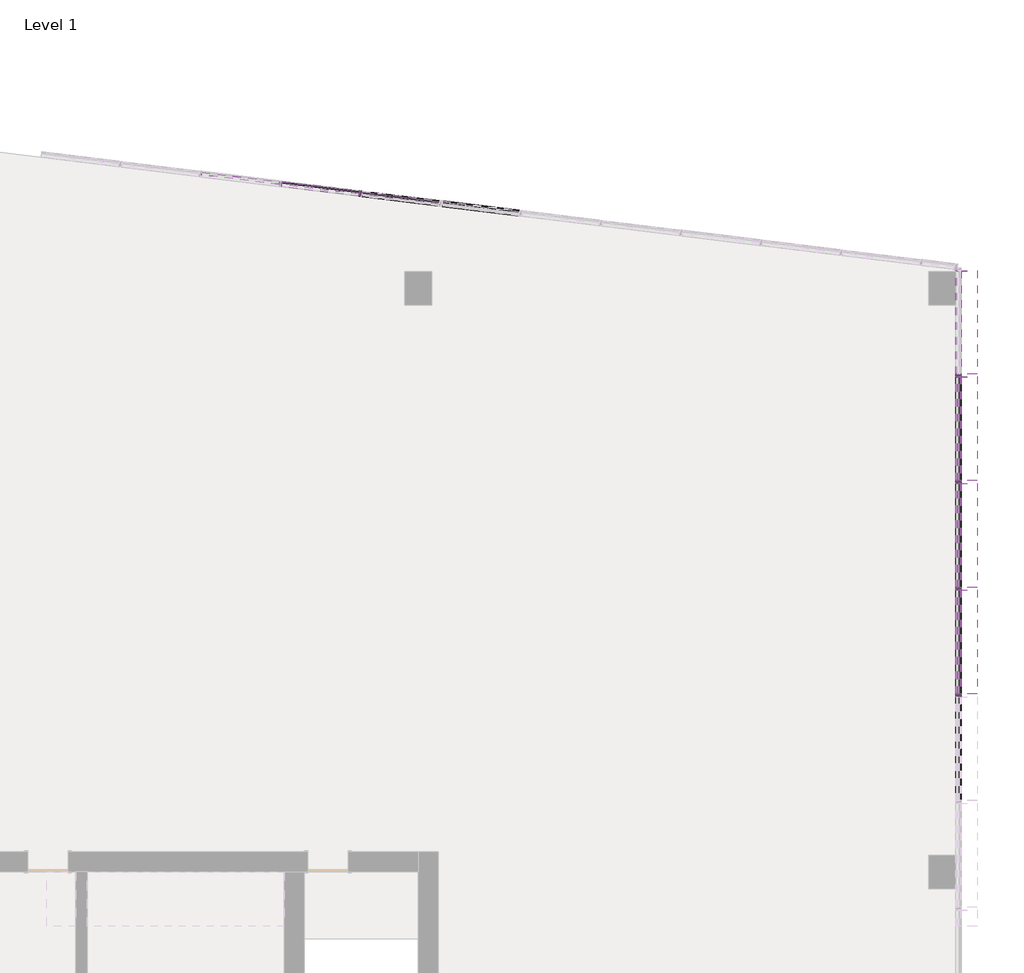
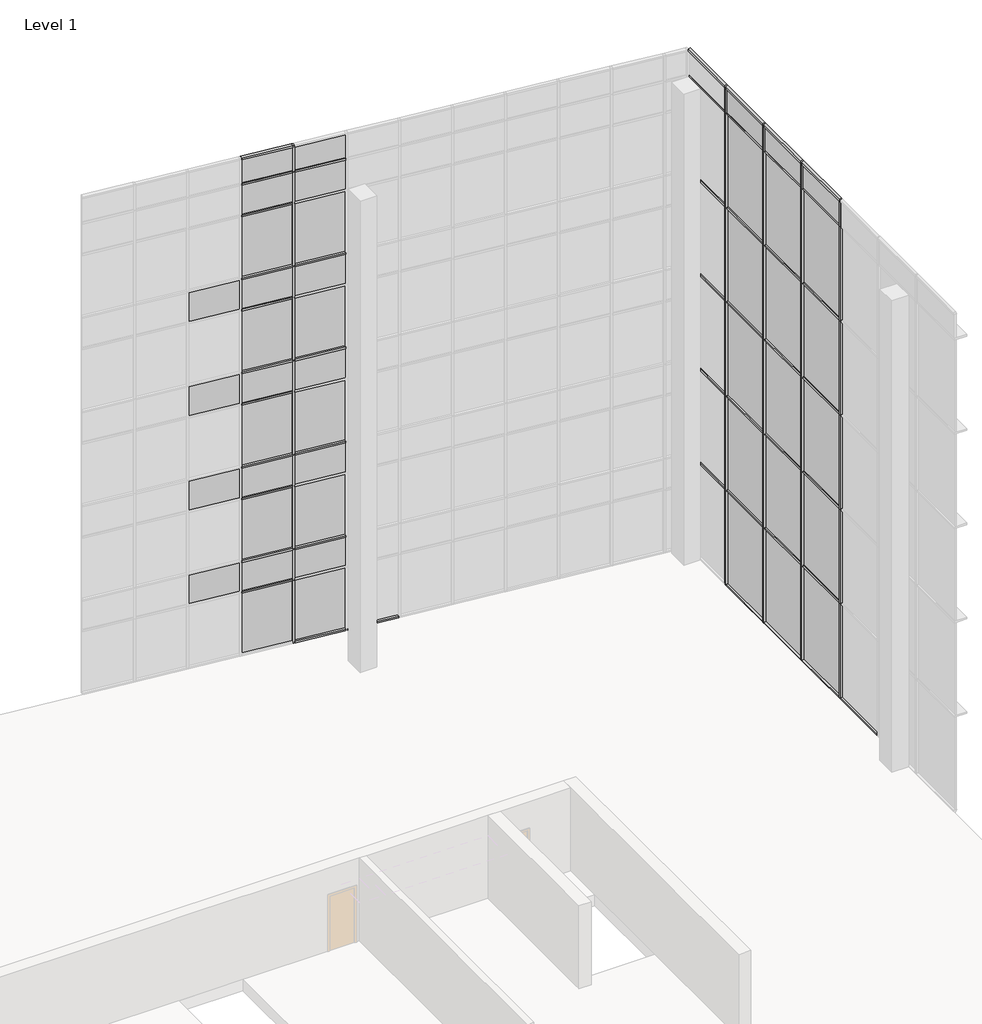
# One storey, part 20 of 23: 77 members, 44 plates.
"""IFC4 building model written with IfcOpenShell, lengths in millimetres."""

from ifc_helpers import new_model, si_unit, origin, place, context, project, spatial, transform, mapped, element, save
from components import member_4178592a, member_eccb456b, member_ad65018b, member_a26b4311, member_2b49869a, member_f92b8aa2, member_810865a4, member_f0fea5a5, member_6d5c3e5e, member_90793d7c, member_64b167af, member_9764dd38, system_panel_glazed_14c75400, system_panel_glazed_bb983545, system_panel_solid_5dfe6f83, system_panel_solid_e25e2004, system_panel_solid_b7551183, system_panel_solid_a8b18003

model = new_model("IFC4")

# Units and contexts
model_context = context("Model", 3, world=origin())
ifc_project = project(units=[si_unit("LENGTHUNIT", "METRE", prefix="MILLI")], contexts=[model_context])

# Site, building, storey
site = spatial("IfcSite", under=ifc_project)
building = spatial("IfcBuilding", under=site)
storey = spatial("IfcBuildingStorey", under=building, Name="Level 1", Elevation=0.0)

# Members
placement = place(None, origin())
member_shape = member_4178592a(model_context)
element("IfcMember", 1, ObjectType="Quad Corner Mullion : 5\" x 5\" Quad Corner", at=placement, inside=storey, context=model_context, shape_type="MappedRepresentation", body=[
    mapped(member_shape, transform((15106.8054088, 334.8243564, 19304.0), x_axis=(0.0, 0.0, 1.0), y_axis=(-1.0, 0.0, 0.0), z_axis=(0.0, -1.0, 0.0))),
])
element("IfcMember", 2, ObjectType="Quad Corner Mullion : 5\" x 5\" Quad Corner", at=placement, inside=storey, context=model_context, shape_type="MappedRepresentation", body=[
    mapped(member_shape, transform((15106.8054088, 2752.982224, 19304.0), x_axis=(0.0, 0.0, 1.0), y_axis=(-1.0, 0.0, 0.0), z_axis=(0.0, -1.0, 0.0))),
])
element("IfcMember", 3, ObjectType="Quad Corner Mullion : 5\" x 5\" Quad Corner", at=placement, inside=storey, context=model_context, shape_type="MappedRepresentation", body=[
    mapped(member_shape, transform((15106.8054088, 5171.1400916, 19304.0), x_axis=(0.0, 0.0, 1.0), y_axis=(-1.0, 0.0, 0.0), z_axis=(0.0, -1.0, 0.0))),
])
member_2_shape = member_eccb456b(model_context)
element("IfcMember", 4, ObjectType="Quad Corner Mullion : 5\" x 5\" Quad Corner", at=placement, inside=storey, context=model_context, shape_type="MappedRepresentation", body=[
    mapped(member_2_shape, transform((15106.8054088, 7589.2979592, 19304.0), x_axis=(0.0, 0.0, 1.0), y_axis=(-1.0, 0.0, 0.0), z_axis=(0.0, -1.0, 0.0))),
])
element("IfcMember", 5, ObjectType="Quad Corner Mullion : 5\" x 5\" Quad Corner", at=placement, inside=storey, context=model_context, shape_type="MappedRepresentation", body=[
    mapped(member_shape, transform((15106.8054088, 271.3243564, 0.0), x_axis=(0.0, 0.0, -1.0), y_axis=(-1.0, 0.0, 0.0), z_axis=(0.0, 1.0, 0.0))),
])
element("IfcMember", 6, ObjectType="Quad Corner Mullion : 5\" x 5\" Quad Corner", at=placement, inside=storey, context=model_context, shape_type="MappedRepresentation", body=[
    mapped(member_shape, transform((15106.8054088, 2689.482224, 0.0), x_axis=(0.0, 0.0, -1.0), y_axis=(-1.0, 0.0, 0.0), z_axis=(0.0, 1.0, 0.0))),
])
element("IfcMember", 7, ObjectType="Quad Corner Mullion : 5\" x 5\" Quad Corner", at=placement, inside=storey, context=model_context, shape_type="MappedRepresentation", body=[
    mapped(member_shape, transform((15106.8054088, 5107.6400916, 0.0), x_axis=(0.0, 0.0, -1.0), y_axis=(-1.0, 0.0, 0.0), z_axis=(0.0, 1.0, 0.0))),
])
element("IfcMember", 8, ObjectType="Quad Corner Mullion : 5\" x 5\" Quad Corner", at=placement, inside=storey, context=model_context, shape_type="MappedRepresentation", body=[
    mapped(member_shape, transform((15106.8054088, 7525.7979592, 0.0), x_axis=(0.0, 0.0, -1.0), y_axis=(-1.0, 0.0, 0.0), z_axis=(0.0, 1.0, 0.0))),
])
member_3_shape = member_ad65018b(model_context)
element("IfcMember", 9, ObjectType="Rectangular Mullion : 2.5\" x 18\" rectangular", at=placement, inside=storey, context=model_context, shape_type="MappedRepresentation", body=[
    mapped(member_3_shape, transform((15106.8054088, 7589.2979592, 3666.6228811), x_axis=(0.0, 0.0, 1.0), y_axis=(-1.0, 0.0, 0.0), z_axis=(0.0, -1.0, 0.0))),
])
element("IfcMember", 10, ObjectType="Rectangular Mullion : 2.5\" x 18\" rectangular", at=placement, inside=storey, context=model_context, shape_type="MappedRepresentation", body=[
    mapped(member_3_shape, transform((15106.8054088, 7589.2979592, 7324.2228811), x_axis=(0.0, 0.0, 1.0), y_axis=(-1.0, 0.0, 0.0), z_axis=(0.0, -1.0, 0.0))),
])
element("IfcMember", 11, ObjectType="Rectangular Mullion : 2.5\" x 18\" rectangular", at=placement, inside=storey, context=model_context, shape_type="MappedRepresentation", body=[
    mapped(member_3_shape, transform((15106.8054088, 7589.2979592, 10981.8228811), x_axis=(0.0, 0.0, 1.0), y_axis=(-1.0, 0.0, 0.0), z_axis=(0.0, -1.0, 0.0))),
])
element("IfcMember", 12, ObjectType="Rectangular Mullion : 2.5\" x 18\" rectangular", at=placement, inside=storey, context=model_context, shape_type="MappedRepresentation", body=[
    mapped(member_3_shape, transform((15106.8054088, 7589.2979592, 14639.4228811), x_axis=(0.0, 0.0, 1.0), y_axis=(-1.0, 0.0, 0.0), z_axis=(0.0, -1.0, 0.0))),
])
element("IfcMember", 13, ObjectType="Rectangular Mullion : 2.5\" x 18\" rectangular", at=placement, inside=storey, context=model_context, shape_type="MappedRepresentation", body=[
    mapped(member_3_shape, transform((15106.8054088, 7589.2979592, 18297.0228811), x_axis=(0.0, 0.0, 1.0), y_axis=(-1.0, 0.0, 0.0), z_axis=(0.0, -1.0, 0.0))),
])
member_4_shape = member_a26b4311(model_context)
element("IfcMember", 14, ObjectType="Rectangular Mullion : 2.5\" x 18\" rectangular", at=placement, inside=storey, context=model_context, shape_type="MappedRepresentation", body=[
    mapped(member_4_shape, transform((15106.8054088, 334.8243564, 3666.6228811), x_axis=(0.0, 0.0, 1.0), y_axis=(-1.0, 0.0, 0.0), z_axis=(0.0, -1.0, 0.0))),
])
element("IfcMember", 15, ObjectType="Rectangular Mullion : 2.5\" x 18\" rectangular", at=placement, inside=storey, context=model_context, shape_type="MappedRepresentation", body=[
    mapped(member_4_shape, transform((15106.8054088, 2752.982224, 3666.6228811), x_axis=(0.0, 0.0, 1.0), y_axis=(-1.0, 0.0, 0.0), z_axis=(0.0, -1.0, 0.0))),
])
element("IfcMember", 16, ObjectType="Rectangular Mullion : 2.5\" x 18\" rectangular", at=placement, inside=storey, context=model_context, shape_type="MappedRepresentation", body=[
    mapped(member_4_shape, transform((15106.8054088, 5171.1400916, 3666.6228811), x_axis=(0.0, 0.0, 1.0), y_axis=(-1.0, 0.0, 0.0), z_axis=(0.0, -1.0, 0.0))),
])
element("IfcMember", 17, ObjectType="Rectangular Mullion : 2.5\" x 18\" rectangular", at=placement, inside=storey, context=model_context, shape_type="MappedRepresentation", body=[
    mapped(member_4_shape, transform((15106.8054088, 334.8243564, 7324.2228811), x_axis=(0.0, 0.0, 1.0), y_axis=(-1.0, 0.0, 0.0), z_axis=(0.0, -1.0, 0.0))),
])
element("IfcMember", 18, ObjectType="Rectangular Mullion : 2.5\" x 18\" rectangular", at=placement, inside=storey, context=model_context, shape_type="MappedRepresentation", body=[
    mapped(member_4_shape, transform((15106.8054088, 2752.982224, 7324.2228811), x_axis=(0.0, 0.0, 1.0), y_axis=(-1.0, 0.0, 0.0), z_axis=(0.0, -1.0, 0.0))),
])
element("IfcMember", 19, ObjectType="Rectangular Mullion : 2.5\" x 18\" rectangular", at=placement, inside=storey, context=model_context, shape_type="MappedRepresentation", body=[
    mapped(member_4_shape, transform((15106.8054088, 5171.1400916, 7324.2228811), x_axis=(0.0, 0.0, 1.0), y_axis=(-1.0, 0.0, 0.0), z_axis=(0.0, -1.0, 0.0))),
])
element("IfcMember", 20, ObjectType="Rectangular Mullion : 2.5\" x 18\" rectangular", at=placement, inside=storey, context=model_context, shape_type="MappedRepresentation", body=[
    mapped(member_4_shape, transform((15106.8054088, 334.8243564, 10981.8228811), x_axis=(0.0, 0.0, 1.0), y_axis=(-1.0, 0.0, 0.0), z_axis=(0.0, -1.0, 0.0))),
])
element("IfcMember", 21, ObjectType="Rectangular Mullion : 2.5\" x 18\" rectangular", at=placement, inside=storey, context=model_context, shape_type="MappedRepresentation", body=[
    mapped(member_4_shape, transform((15106.8054088, 2752.982224, 10981.8228811), x_axis=(0.0, 0.0, 1.0), y_axis=(-1.0, 0.0, 0.0), z_axis=(0.0, -1.0, 0.0))),
])
element("IfcMember", 22, ObjectType="Rectangular Mullion : 2.5\" x 18\" rectangular", at=placement, inside=storey, context=model_context, shape_type="MappedRepresentation", body=[
    mapped(member_4_shape, transform((15106.8054088, 5171.1400916, 10981.8228811), x_axis=(0.0, 0.0, 1.0), y_axis=(-1.0, 0.0, 0.0), z_axis=(0.0, -1.0, 0.0))),
])
element("IfcMember", 23, ObjectType="Rectangular Mullion : 2.5\" x 18\" rectangular", at=placement, inside=storey, context=model_context, shape_type="MappedRepresentation", body=[
    mapped(member_4_shape, transform((15106.8054088, 334.8243564, 14639.4228811), x_axis=(0.0, 0.0, 1.0), y_axis=(-1.0, 0.0, 0.0), z_axis=(0.0, -1.0, 0.0))),
])
element("IfcMember", 24, ObjectType="Rectangular Mullion : 2.5\" x 18\" rectangular", at=placement, inside=storey, context=model_context, shape_type="MappedRepresentation", body=[
    mapped(member_4_shape, transform((15106.8054088, 2752.982224, 14639.4228811), x_axis=(0.0, 0.0, 1.0), y_axis=(-1.0, 0.0, 0.0), z_axis=(0.0, -1.0, 0.0))),
])
element("IfcMember", 25, ObjectType="Rectangular Mullion : 2.5\" x 18\" rectangular", at=placement, inside=storey, context=model_context, shape_type="MappedRepresentation", body=[
    mapped(member_4_shape, transform((15106.8054088, 5171.1400916, 14639.4228811), x_axis=(0.0, 0.0, 1.0), y_axis=(-1.0, 0.0, 0.0), z_axis=(0.0, -1.0, 0.0))),
])
element("IfcMember", 26, ObjectType="Rectangular Mullion : 2.5\" x 18\" rectangular", at=placement, inside=storey, context=model_context, shape_type="MappedRepresentation", body=[
    mapped(member_4_shape, transform((15106.8054088, 334.8243564, 18297.0228811), x_axis=(0.0, 0.0, 1.0), y_axis=(-1.0, 0.0, 0.0), z_axis=(0.0, -1.0, 0.0))),
])
element("IfcMember", 27, ObjectType="Rectangular Mullion : 2.5\" x 18\" rectangular", at=placement, inside=storey, context=model_context, shape_type="MappedRepresentation", body=[
    mapped(member_4_shape, transform((15106.8054088, 2752.982224, 18297.0228811), x_axis=(0.0, 0.0, 1.0), y_axis=(-1.0, 0.0, 0.0), z_axis=(0.0, -1.0, 0.0))),
])
element("IfcMember", 28, ObjectType="Rectangular Mullion : 2.5\" x 18\" rectangular", at=placement, inside=storey, context=model_context, shape_type="MappedRepresentation", body=[
    mapped(member_4_shape, transform((15106.8054088, 5171.1400916, 18297.0228811), x_axis=(0.0, 0.0, 1.0), y_axis=(-1.0, 0.0, 0.0), z_axis=(0.0, -1.0, 0.0))),
])
member_5_shape = member_2b49869a(model_context)
element("IfcMember", 29, ObjectType="Rectangular Mullion : 2.5\" x 5\" rectangular", at=placement, inside=storey, context=model_context, shape_type="MappedRepresentation", body=[
    mapped(member_5_shape, transform((1560.1740514, 11679.7958909, 2438.4), x_axis=(0.9925461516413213, -0.12186934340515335, 0.0), y_axis=(-0.12186934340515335, -0.9925461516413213, 0.0), z_axis=(0.0, 0.0, -1.0))),
])
member_6_shape = member_f92b8aa2(model_context)
element("IfcMember", 30, ObjectType="Rectangular Mullion : 2.5\" x 5\" rectangular", at=placement, inside=storey, context=model_context, shape_type="MappedRepresentation", body=[
    mapped(member_6_shape, transform((1560.1740514, 11679.7958909, 18288.0), x_axis=(0.9925461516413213, -0.12186934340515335, 0.0), y_axis=(-0.12186934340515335, -0.9925461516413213, 0.0), z_axis=(0.0, 0.0, -1.0))),
])
member_7_shape = member_810865a4(model_context)
element("IfcMember", 31, ObjectType="Rectangular Mullion : 2.5\" x 5\" rectangular", at=placement, inside=storey, context=model_context, shape_type="MappedRepresentation", body=[
    mapped(member_7_shape, transform((1560.1740514, 11679.7958909, 14630.4), x_axis=(0.9925461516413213, -0.12186934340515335, 0.0), y_axis=(-0.12186934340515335, -0.9925461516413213, 0.0), z_axis=(0.0, 0.0, -1.0))),
])
element("IfcMember", 32, ObjectType="Rectangular Mullion : 2.5\" x 5\" rectangular", at=placement, inside=storey, context=model_context, shape_type="MappedRepresentation", body=[
    mapped(member_7_shape, transform((1560.1740514, 11679.7958909, 10972.8), x_axis=(0.9925461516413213, -0.12186934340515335, 0.0), y_axis=(-0.12186934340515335, -0.9925461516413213, 0.0), z_axis=(0.0, 0.0, -1.0))),
])
element("IfcMember", 33, ObjectType="Rectangular Mullion : 2.5\" x 5\" rectangular", at=placement, inside=storey, context=model_context, shape_type="MappedRepresentation", body=[
    mapped(member_7_shape, transform((1560.1740514, 11679.7958909, 7315.2), x_axis=(0.9925461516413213, -0.12186934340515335, 0.0), y_axis=(-0.12186934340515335, -0.9925461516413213, 0.0), z_axis=(0.0, 0.0, -1.0))),
])
element("IfcMember", 34, ObjectType="Rectangular Mullion : 2.5\" x 5\" rectangular", at=placement, inside=storey, context=model_context, shape_type="MappedRepresentation", body=[
    mapped(member_7_shape, transform((1560.1740514, 11679.7958909, 3657.6), x_axis=(0.9925461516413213, -0.12186934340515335, 0.0), y_axis=(-0.12186934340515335, -0.9925461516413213, 0.0), z_axis=(0.0, 0.0, -1.0))),
])
element("IfcMember", 35, ObjectType="Rectangular Mullion : 2.5\" x 5\" rectangular", at=placement, inside=storey, context=model_context, shape_type="MappedRepresentation", body=[
    mapped(member_7_shape, transform((15106.8054088, 303.0743564, 3666.6228811), x_axis=(0.0, -1.0, 0.0), y_axis=(-1.0, 0.0, 0.0), z_axis=(0.0, 0.0, -1.0))),
])
element("IfcMember", 36, ObjectType="Rectangular Mullion : 2.5\" x 5\" rectangular", at=placement, inside=storey, context=model_context, shape_type="MappedRepresentation", body=[
    mapped(member_7_shape, transform((15106.8054088, 5139.3900916, 3666.6228811), x_axis=(0.0, -1.0, 0.0), y_axis=(-1.0, 0.0, 0.0), z_axis=(0.0, 0.0, -1.0))),
])
element("IfcMember", 37, ObjectType="Rectangular Mullion : 2.5\" x 5\" rectangular", at=placement, inside=storey, context=model_context, shape_type="MappedRepresentation", body=[
    mapped(member_7_shape, transform((15106.8054088, 7557.5479592, 3666.6228811), x_axis=(0.0, -1.0, 0.0), y_axis=(-1.0, 0.0, 0.0), z_axis=(0.0, 0.0, -1.0))),
])
element("IfcMember", 38, ObjectType="Rectangular Mullion : 2.5\" x 5\" rectangular", at=placement, inside=storey, context=model_context, shape_type="MappedRepresentation", body=[
    mapped(member_7_shape, transform((15106.8054088, 2721.232224, 3666.6228811), x_axis=(0.0, -1.0, 0.0), y_axis=(-1.0, 0.0, 0.0), z_axis=(0.0, 0.0, -1.0))),
])
element("IfcMember", 39, ObjectType="Rectangular Mullion : 2.5\" x 5\" rectangular", at=placement, inside=storey, context=model_context, shape_type="MappedRepresentation", body=[
    mapped(member_7_shape, transform((15106.8054088, 303.0743564, 7324.2228811), x_axis=(0.0, -1.0, 0.0), y_axis=(-1.0, 0.0, 0.0), z_axis=(0.0, 0.0, -1.0))),
])
element("IfcMember", 40, ObjectType="Rectangular Mullion : 2.5\" x 5\" rectangular", at=placement, inside=storey, context=model_context, shape_type="MappedRepresentation", body=[
    mapped(member_7_shape, transform((15106.8054088, 5139.3900916, 7324.2228811), x_axis=(0.0, -1.0, 0.0), y_axis=(-1.0, 0.0, 0.0), z_axis=(0.0, 0.0, -1.0))),
])
element("IfcMember", 41, ObjectType="Rectangular Mullion : 2.5\" x 5\" rectangular", at=placement, inside=storey, context=model_context, shape_type="MappedRepresentation", body=[
    mapped(member_7_shape, transform((15106.8054088, 7557.5479592, 7324.2228811), x_axis=(0.0, -1.0, 0.0), y_axis=(-1.0, 0.0, 0.0), z_axis=(0.0, 0.0, -1.0))),
])
element("IfcMember", 42, ObjectType="Rectangular Mullion : 2.5\" x 5\" rectangular", at=placement, inside=storey, context=model_context, shape_type="MappedRepresentation", body=[
    mapped(member_7_shape, transform((15106.8054088, 2721.232224, 7324.2228811), x_axis=(0.0, -1.0, 0.0), y_axis=(-1.0, 0.0, 0.0), z_axis=(0.0, 0.0, -1.0))),
])
element("IfcMember", 43, ObjectType="Rectangular Mullion : 2.5\" x 5\" rectangular", at=placement, inside=storey, context=model_context, shape_type="MappedRepresentation", body=[
    mapped(member_7_shape, transform((15106.8054088, 303.0743564, 10981.8228811), x_axis=(0.0, -1.0, 0.0), y_axis=(-1.0, 0.0, 0.0), z_axis=(0.0, 0.0, -1.0))),
])
element("IfcMember", 44, ObjectType="Rectangular Mullion : 2.5\" x 5\" rectangular", at=placement, inside=storey, context=model_context, shape_type="MappedRepresentation", body=[
    mapped(member_7_shape, transform((15106.8054088, 5139.3900916, 10981.8228811), x_axis=(0.0, -1.0, 0.0), y_axis=(-1.0, 0.0, 0.0), z_axis=(0.0, 0.0, -1.0))),
])
element("IfcMember", 45, ObjectType="Rectangular Mullion : 2.5\" x 5\" rectangular", at=placement, inside=storey, context=model_context, shape_type="MappedRepresentation", body=[
    mapped(member_7_shape, transform((15106.8054088, 7557.5479592, 10981.8228811), x_axis=(0.0, -1.0, 0.0), y_axis=(-1.0, 0.0, 0.0), z_axis=(0.0, 0.0, -1.0))),
])
element("IfcMember", 46, ObjectType="Rectangular Mullion : 2.5\" x 5\" rectangular", at=placement, inside=storey, context=model_context, shape_type="MappedRepresentation", body=[
    mapped(member_7_shape, transform((15106.8054088, 2721.232224, 10981.8228811), x_axis=(0.0, -1.0, 0.0), y_axis=(-1.0, 0.0, 0.0), z_axis=(0.0, 0.0, -1.0))),
])
element("IfcMember", 47, ObjectType="Rectangular Mullion : 2.5\" x 5\" rectangular", at=placement, inside=storey, context=model_context, shape_type="MappedRepresentation", body=[
    mapped(member_7_shape, transform((15106.8054088, 303.0743564, 14639.4228811), x_axis=(0.0, -1.0, 0.0), y_axis=(-1.0, 0.0, 0.0), z_axis=(0.0, 0.0, -1.0))),
])
element("IfcMember", 48, ObjectType="Rectangular Mullion : 2.5\" x 5\" rectangular", at=placement, inside=storey, context=model_context, shape_type="MappedRepresentation", body=[
    mapped(member_7_shape, transform((15106.8054088, 5139.3900916, 14639.4228811), x_axis=(0.0, -1.0, 0.0), y_axis=(-1.0, 0.0, 0.0), z_axis=(0.0, 0.0, -1.0))),
])
element("IfcMember", 49, ObjectType="Rectangular Mullion : 2.5\" x 5\" rectangular", at=placement, inside=storey, context=model_context, shape_type="MappedRepresentation", body=[
    mapped(member_7_shape, transform((15106.8054088, 7557.5479592, 14639.4228811), x_axis=(0.0, -1.0, 0.0), y_axis=(-1.0, 0.0, 0.0), z_axis=(0.0, 0.0, -1.0))),
])
element("IfcMember", 50, ObjectType="Rectangular Mullion : 2.5\" x 5\" rectangular", at=placement, inside=storey, context=model_context, shape_type="MappedRepresentation", body=[
    mapped(member_7_shape, transform((15106.8054088, 2721.232224, 14639.4228811), x_axis=(0.0, -1.0, 0.0), y_axis=(-1.0, 0.0, 0.0), z_axis=(0.0, 0.0, -1.0))),
])
member_8_shape = member_f0fea5a5(model_context)
element("IfcMember", 51, ObjectType="Rectangular Mullion : 2.5\" x 5\" rectangular", at=placement, inside=storey, context=model_context, shape_type="MappedRepresentation", body=[
    mapped(member_8_shape, transform((1560.1740514, 11679.7958909, 0.0), x_axis=(0.9925461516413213, -0.12186934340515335, 0.0), y_axis=(-0.12186934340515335, -0.9925461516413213, 0.0), z_axis=(0.0, 0.0, -1.0))),
])
member_9_shape = member_6d5c3e5e(model_context)
element("IfcMember", 52, ObjectType="Rectangular Mullion : 2.5\" x 5\" rectangular", at=placement, inside=storey, context=model_context, shape_type="MappedRepresentation", body=[
    mapped(member_9_shape, transform((1528.6607111, 11683.6652425, 19304.0), x_axis=(0.0, 0.0, 1.0), y_axis=(-0.12186934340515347, -0.9925461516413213, 0.0), z_axis=(0.9925461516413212, -0.12186934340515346, 0.0))),
])
member_10_shape = member_90793d7c(model_context)
element("IfcMember", 53, ObjectType="Rectangular Mullion : 2.5\" x 5\" rectangular", at=placement, inside=storey, context=model_context, shape_type="MappedRepresentation", body=[
    mapped(member_10_shape, transform((15106.8054088, 303.0743564, 0.0), x_axis=(0.0, -1.0, 0.0), y_axis=(-1.0, 0.0, 0.0), z_axis=(0.0, 0.0, -1.0))),
])
element("IfcMember", 54, ObjectType="Rectangular Mullion : 2.5\" x 5\" rectangular", at=placement, inside=storey, context=model_context, shape_type="MappedRepresentation", body=[
    mapped(member_10_shape, transform((15106.8054088, 5139.3900916, 0.0), x_axis=(0.0, -1.0, 0.0), y_axis=(-1.0, 0.0, 0.0), z_axis=(0.0, 0.0, -1.0))),
])
element("IfcMember", 55, ObjectType="Rectangular Mullion : 2.5\" x 5\" rectangular", at=placement, inside=storey, context=model_context, shape_type="MappedRepresentation", body=[
    mapped(member_10_shape, transform((15106.8054088, 7557.5479592, 0.0), x_axis=(0.0, -1.0, 0.0), y_axis=(-1.0, 0.0, 0.0), z_axis=(0.0, 0.0, -1.0))),
])
element("IfcMember", 56, ObjectType="Rectangular Mullion : 2.5\" x 5\" rectangular", at=placement, inside=storey, context=model_context, shape_type="MappedRepresentation", body=[
    mapped(member_10_shape, transform((15106.8054088, 2721.232224, 0.0), x_axis=(0.0, -1.0, 0.0), y_axis=(-1.0, 0.0, 0.0), z_axis=(0.0, 0.0, -1.0))),
])
member_11_shape = member_64b167af(model_context)
element("IfcMember", 57, ObjectType="Rectangular Mullion : 2.5\" x 5\" rectangular", at=placement, inside=storey, context=model_context, shape_type="MappedRepresentation", body=[
    mapped(member_11_shape, transform((15106.8054088, 303.0743564, 18297.0228811), x_axis=(0.0, -1.0, 0.0), y_axis=(-1.0, 0.0, 0.0), z_axis=(0.0, 0.0, -1.0))),
])
element("IfcMember", 58, ObjectType="Rectangular Mullion : 2.5\" x 5\" rectangular", at=placement, inside=storey, context=model_context, shape_type="MappedRepresentation", body=[
    mapped(member_11_shape, transform((15106.8054088, 5139.3900916, 18297.0228811), x_axis=(0.0, -1.0, 0.0), y_axis=(-1.0, 0.0, 0.0), z_axis=(0.0, 0.0, -1.0))),
])
element("IfcMember", 59, ObjectType="Rectangular Mullion : 2.5\" x 5\" rectangular", at=placement, inside=storey, context=model_context, shape_type="MappedRepresentation", body=[
    mapped(member_11_shape, transform((15106.8054088, 7557.5479592, 18297.0228811), x_axis=(0.0, -1.0, 0.0), y_axis=(-1.0, 0.0, 0.0), z_axis=(0.0, 0.0, -1.0))),
])
element("IfcMember", 60, ObjectType="Rectangular Mullion : 2.5\" x 5\" rectangular", at=placement, inside=storey, context=model_context, shape_type="MappedRepresentation", body=[
    mapped(member_11_shape, transform((15106.8054088, 2721.232224, 18297.0228811), x_axis=(0.0, -1.0, 0.0), y_axis=(-1.0, 0.0, 0.0), z_axis=(0.0, 0.0, -1.0))),
])
member_12_shape = member_9764dd38(model_context)
element("IfcMember", 61, ObjectType="Rectangular Mullion : 2.5\" x 5\" rectangular", at=placement, inside=storey, context=model_context, shape_type="MappedRepresentation", body=[
    mapped(member_12_shape, transform((1528.6607111, 11683.6652425, 17068.8), x_axis=(0.0, 0.0, 1.0), y_axis=(-0.1218693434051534, -0.9925461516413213, 0.0), z_axis=(0.9925461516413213, -0.1218693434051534, 0.0))),
])
element("IfcMember", 62, ObjectType="Rectangular Mullion : 2.5\" x 5\" rectangular", at=placement, inside=storey, context=model_context, shape_type="MappedRepresentation", body=[
    mapped(member_12_shape, transform((1528.6607111, 11683.6652425, 13411.2), x_axis=(0.0, 0.0, 1.0), y_axis=(-0.1218693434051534, -0.9925461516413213, 0.0), z_axis=(0.9925461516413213, -0.1218693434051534, 0.0))),
])
element("IfcMember", 63, ObjectType="Rectangular Mullion : 2.5\" x 5\" rectangular", at=placement, inside=storey, context=model_context, shape_type="MappedRepresentation", body=[
    mapped(member_12_shape, transform((1528.6607111, 11683.6652425, 9753.6), x_axis=(0.0, 0.0, 1.0), y_axis=(-0.1218693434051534, -0.9925461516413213, 0.0), z_axis=(0.9925461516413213, -0.1218693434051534, 0.0))),
])
element("IfcMember", 64, ObjectType="Rectangular Mullion : 2.5\" x 5\" rectangular", at=placement, inside=storey, context=model_context, shape_type="MappedRepresentation", body=[
    mapped(member_12_shape, transform((1528.6607111, 11683.6652425, 6096.0), x_axis=(0.0, 0.0, 1.0), y_axis=(-0.1218693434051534, -0.9925461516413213, 0.0), z_axis=(0.9925461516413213, -0.1218693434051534, 0.0))),
])
element("IfcMember", 65, ObjectType="Rectangular Mullion : 2.5\" x 5\" rectangular", at=placement, inside=storey, context=model_context, shape_type="MappedRepresentation", body=[
    mapped(member_12_shape, transform((1528.6607111, 11683.6652425, 2470.15), x_axis=(0.0, 0.0, 1.0), y_axis=(-0.1218693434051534, -0.9925461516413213, 0.0), z_axis=(0.9925461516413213, -0.1218693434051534, 0.0))),
])
element("IfcMember", 66, ObjectType="Rectangular Mullion : 2.5\" x 5\" rectangular", at=placement, inside=storey, context=model_context, shape_type="MappedRepresentation", body=[
    mapped(member_9_shape, transform((3406.8557938, 11453.051884, 0.0), x_axis=(0.0, 0.0, -1.0), y_axis=(-0.12186934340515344, -0.9925461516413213, 0.0), z_axis=(-0.9925461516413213, 0.12186934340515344, 0.0))),
])
element("IfcMember", 67, ObjectType="Rectangular Mullion : 2.5\" x 5\" rectangular", at=placement, inside=storey, context=model_context, shape_type="MappedRepresentation", body=[
    mapped(member_9_shape, transform((1591.6873917, 11675.9265392, 0.0), x_axis=(0.0, 0.0, -1.0), y_axis=(-0.12186934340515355, -0.9925461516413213, 0.0), z_axis=(-0.9925461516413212, 0.12186934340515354, 0.0))),
])
element("IfcMember", 68, ObjectType="Rectangular Mullion : 2.5\" x 5\" rectangular", at=placement, inside=storey, context=model_context, shape_type="MappedRepresentation", body=[
    mapped(member_12_shape, transform((3343.8291132, 11460.7905873, 3657.6), x_axis=(0.0, 0.0, 1.0), y_axis=(-0.12186934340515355, -0.9925461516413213, 0.0), z_axis=(0.9925461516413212, -0.12186934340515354, 0.0))),
])
element("IfcMember", 69, ObjectType="Rectangular Mullion : 2.5\" x 5\" rectangular", at=placement, inside=storey, context=model_context, shape_type="MappedRepresentation", body=[
    mapped(member_12_shape, transform((1528.6607111, 11683.6652425, 3657.6), x_axis=(0.0, 0.0, 1.0), y_axis=(-0.12186934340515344, -0.9925461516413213, 0.0), z_axis=(0.9925461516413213, -0.12186934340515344, 0.0))),
])
element("IfcMember", 70, ObjectType="Rectangular Mullion : 2.5\" x 5\" rectangular", at=placement, inside=storey, context=model_context, shape_type="MappedRepresentation", body=[
    mapped(member_12_shape, transform((3343.8291132, 11460.7905873, 10972.8), x_axis=(0.0, 0.0, 1.0), y_axis=(-0.12186934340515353, -0.9925461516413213, 0.0), z_axis=(0.9925461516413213, -0.12186934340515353, 0.0))),
])
element("IfcMember", 71, ObjectType="Rectangular Mullion : 2.5\" x 5\" rectangular", at=placement, inside=storey, context=model_context, shape_type="MappedRepresentation", body=[
    mapped(member_12_shape, transform((1528.6607111, 11683.6652425, 10972.8), x_axis=(0.0, 0.0, 1.0), y_axis=(-0.12186934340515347, -0.9925461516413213, 0.0), z_axis=(0.9925461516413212, -0.12186934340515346, 0.0))),
])
element("IfcMember", 72, ObjectType="Rectangular Mullion : 2.5\" x 5\" rectangular", at=placement, inside=storey, context=model_context, shape_type="MappedRepresentation", body=[
    mapped(member_12_shape, transform((3343.8291132, 11460.7905873, 14630.4), x_axis=(0.0, 0.0, 1.0), y_axis=(-0.12186934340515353, -0.9925461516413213, 0.0), z_axis=(0.9925461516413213, -0.12186934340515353, 0.0))),
])
element("IfcMember", 73, ObjectType="Rectangular Mullion : 2.5\" x 5\" rectangular", at=placement, inside=storey, context=model_context, shape_type="MappedRepresentation", body=[
    mapped(member_12_shape, transform((1528.6607111, 11683.6652425, 14630.4), x_axis=(0.0, 0.0, 1.0), y_axis=(-0.12186934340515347, -0.9925461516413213, 0.0), z_axis=(0.9925461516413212, -0.12186934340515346, 0.0))),
])
element("IfcMember", 74, ObjectType="Rectangular Mullion : 2.5\" x 5\" rectangular", at=placement, inside=storey, context=model_context, shape_type="MappedRepresentation", body=[
    mapped(member_12_shape, transform((3343.8291132, 11460.7905873, 7315.2), x_axis=(0.0, 0.0, 1.0), y_axis=(-0.12186934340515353, -0.9925461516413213, 0.0), z_axis=(0.9925461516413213, -0.12186934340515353, 0.0))),
])
element("IfcMember", 75, ObjectType="Rectangular Mullion : 2.5\" x 5\" rectangular", at=placement, inside=storey, context=model_context, shape_type="MappedRepresentation", body=[
    mapped(member_12_shape, transform((1528.6607111, 11683.6652425, 7315.2), x_axis=(0.0, 0.0, 1.0), y_axis=(-0.12186934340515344, -0.9925461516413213, 0.0), z_axis=(0.9925461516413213, -0.12186934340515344, 0.0))),
])
element("IfcMember", 76, ObjectType="Rectangular Mullion : 2.5\" x 5\" rectangular", at=placement, inside=storey, context=model_context, shape_type="MappedRepresentation", body=[
    mapped(member_12_shape, transform((3343.8291132, 11460.7905873, 18288.0), x_axis=(0.0, 0.0, 1.0), y_axis=(-0.12186934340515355, -0.9925461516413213, 0.0), z_axis=(0.9925461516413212, -0.12186934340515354, 0.0))),
])
element("IfcMember", 77, ObjectType="Rectangular Mullion : 2.5\" x 5\" rectangular", at=placement, inside=storey, context=model_context, shape_type="MappedRepresentation", body=[
    mapped(member_12_shape, transform((1528.6607111, 11683.6652425, 18288.0), x_axis=(0.0, 0.0, 1.0), y_axis=(-0.12186934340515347, -0.9925461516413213, 0.0), z_axis=(0.9925461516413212, -0.12186934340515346, 0.0))),
])

# Plates
system_panel_glazed_shape = system_panel_glazed_14c75400(model_context)
element("IfcPlate", 78, ObjectType="System Panel : Glazed", at=placement, inside=storey, context=model_context, shape_type="MappedRepresentation", body=[
    mapped(system_panel_glazed_shape, transform((2467.7582524, 11568.3585633, 14662.15), x_axis=(0.9925461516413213, -0.12186934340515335, 0.0), y_axis=(0.12186934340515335, 0.9925461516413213, 0.0), z_axis=(0.0, 0.0, 1.0))),
])
element("IfcPlate", 79, ObjectType="System Panel : Glazed", at=placement, inside=storey, context=model_context, shape_type="MappedRepresentation", body=[
    mapped(system_panel_glazed_shape, transform((652.5898503, 11791.2332185, 14662.15), x_axis=(0.9925461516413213, -0.12186934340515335, 0.0), y_axis=(0.12186934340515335, 0.9925461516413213, 0.0), z_axis=(0.0, 0.0, 1.0))),
])
element("IfcPlate", 80, ObjectType="System Panel : Glazed", at=placement, inside=storey, context=model_context, shape_type="MappedRepresentation", body=[
    mapped(system_panel_glazed_shape, transform((2467.7582524, 11568.3585633, 11004.55), x_axis=(0.9925461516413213, -0.12186934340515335, 0.0), y_axis=(0.12186934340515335, 0.9925461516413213, 0.0), z_axis=(0.0, 0.0, 1.0))),
])
element("IfcPlate", 81, ObjectType="System Panel : Glazed", at=placement, inside=storey, context=model_context, shape_type="MappedRepresentation", body=[
    mapped(system_panel_glazed_shape, transform((652.5898503, 11791.2332185, 11004.55), x_axis=(0.9925461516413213, -0.12186934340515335, 0.0), y_axis=(0.12186934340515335, 0.9925461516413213, 0.0), z_axis=(0.0, 0.0, 1.0))),
])
element("IfcPlate", 82, ObjectType="System Panel : Glazed", at=placement, inside=storey, context=model_context, shape_type="MappedRepresentation", body=[
    mapped(system_panel_glazed_shape, transform((2467.7582524, 11568.3585633, 7346.95), x_axis=(0.9925461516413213, -0.12186934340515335, 0.0), y_axis=(0.12186934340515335, 0.9925461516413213, 0.0), z_axis=(0.0, 0.0, 1.0))),
])
element("IfcPlate", 83, ObjectType="System Panel : Glazed", at=placement, inside=storey, context=model_context, shape_type="MappedRepresentation", body=[
    mapped(system_panel_glazed_shape, transform((652.5898503, 11791.2332185, 7346.95), x_axis=(0.9925461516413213, -0.12186934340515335, 0.0), y_axis=(0.12186934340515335, 0.9925461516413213, 0.0), z_axis=(0.0, 0.0, 1.0))),
])
element("IfcPlate", 84, ObjectType="System Panel : Glazed", at=placement, inside=storey, context=model_context, shape_type="MappedRepresentation", body=[
    mapped(system_panel_glazed_shape, transform((2467.7582524, 11568.3585633, 3689.35), x_axis=(0.9925461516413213, -0.12186934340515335, 0.0), y_axis=(0.12186934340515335, 0.9925461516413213, 0.0), z_axis=(0.0, 0.0, 1.0))),
])
element("IfcPlate", 85, ObjectType="System Panel : Glazed", at=placement, inside=storey, context=model_context, shape_type="MappedRepresentation", body=[
    mapped(system_panel_glazed_shape, transform((652.5898503, 11791.2332185, 3689.35), x_axis=(0.9925461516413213, -0.12186934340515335, 0.0), y_axis=(0.12186934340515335, 0.9925461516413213, 0.0), z_axis=(0.0, 0.0, 1.0))),
])
element("IfcPlate", 86, ObjectType="System Panel : Glazed", at=placement, inside=storey, context=model_context, shape_type="MappedRepresentation", body=[
    mapped(system_panel_glazed_shape, transform((2467.7582524, 11568.3585633, 63.5), x_axis=(0.9925461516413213, -0.12186934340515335, 0.0), y_axis=(0.12186934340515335, 0.9925461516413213, 0.0), z_axis=(0.0, 0.0, 1.0))),
])
element("IfcPlate", 87, ObjectType="System Panel : Glazed", at=placement, inside=storey, context=model_context, shape_type="MappedRepresentation", body=[
    mapped(system_panel_glazed_shape, transform((652.5898503, 11791.2332185, 63.5), x_axis=(0.9925461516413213, -0.12186934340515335, 0.0), y_axis=(0.12186934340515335, 0.9925461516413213, 0.0), z_axis=(0.0, 0.0, 1.0))),
])
system_panel_glazed_2_shape = system_panel_glazed_bb983545(model_context)
element("IfcPlate", 88, ObjectType="System Panel : Glazed", at=placement, inside=storey, context=model_context, shape_type="MappedRepresentation", body=[
    mapped(system_panel_glazed_2_shape, transform((15106.8054088, 6348.4690254, 40.7728811), x_axis=(0.0, -1.0, 0.0), y_axis=(1.0, 0.0, 0.0), z_axis=(0.0, 0.0, 1.0))),
])
element("IfcPlate", 89, ObjectType="System Panel : Glazed", at=placement, inside=storey, context=model_context, shape_type="MappedRepresentation", body=[
    mapped(system_panel_glazed_2_shape, transform((15106.8054088, 6348.4690254, 3698.3728811), x_axis=(0.0, -1.0, 0.0), y_axis=(1.0, 0.0, 0.0), z_axis=(0.0, 0.0, 1.0))),
])
element("IfcPlate", 90, ObjectType="System Panel : Glazed", at=placement, inside=storey, context=model_context, shape_type="MappedRepresentation", body=[
    mapped(system_panel_glazed_2_shape, transform((15106.8054088, 6348.4690254, 7355.9728811), x_axis=(0.0, -1.0, 0.0), y_axis=(1.0, 0.0, 0.0), z_axis=(0.0, 0.0, 1.0))),
])
element("IfcPlate", 91, ObjectType="System Panel : Glazed", at=placement, inside=storey, context=model_context, shape_type="MappedRepresentation", body=[
    mapped(system_panel_glazed_2_shape, transform((15106.8054088, 6348.4690254, 11013.5728811), x_axis=(0.0, -1.0, 0.0), y_axis=(1.0, 0.0, 0.0), z_axis=(0.0, 0.0, 1.0))),
])
element("IfcPlate", 92, ObjectType="System Panel : Glazed", at=placement, inside=storey, context=model_context, shape_type="MappedRepresentation", body=[
    mapped(system_panel_glazed_2_shape, transform((15106.8054088, 6348.4690254, 14671.1728811), x_axis=(0.0, -1.0, 0.0), y_axis=(1.0, 0.0, 0.0), z_axis=(0.0, 0.0, 1.0))),
])
element("IfcPlate", 93, ObjectType="System Panel : Glazed", at=placement, inside=storey, context=model_context, shape_type="MappedRepresentation", body=[
    mapped(system_panel_glazed_2_shape, transform((15106.8054088, 3930.3111578, 40.7728811), x_axis=(0.0, -1.0, 0.0), y_axis=(1.0, 0.0, 0.0), z_axis=(0.0, 0.0, 1.0))),
])
element("IfcPlate", 94, ObjectType="System Panel : Glazed", at=placement, inside=storey, context=model_context, shape_type="MappedRepresentation", body=[
    mapped(system_panel_glazed_2_shape, transform((15106.8054088, 3930.3111578, 3698.3728811), x_axis=(0.0, -1.0, 0.0), y_axis=(1.0, 0.0, 0.0), z_axis=(0.0, 0.0, 1.0))),
])
element("IfcPlate", 95, ObjectType="System Panel : Glazed", at=placement, inside=storey, context=model_context, shape_type="MappedRepresentation", body=[
    mapped(system_panel_glazed_2_shape, transform((15106.8054088, 3930.3111578, 7355.9728811), x_axis=(0.0, -1.0, 0.0), y_axis=(1.0, 0.0, 0.0), z_axis=(0.0, 0.0, 1.0))),
])
element("IfcPlate", 96, ObjectType="System Panel : Glazed", at=placement, inside=storey, context=model_context, shape_type="MappedRepresentation", body=[
    mapped(system_panel_glazed_2_shape, transform((15106.8054088, 3930.3111578, 11013.5728811), x_axis=(0.0, -1.0, 0.0), y_axis=(1.0, 0.0, 0.0), z_axis=(0.0, 0.0, 1.0))),
])
element("IfcPlate", 97, ObjectType="System Panel : Glazed", at=placement, inside=storey, context=model_context, shape_type="MappedRepresentation", body=[
    mapped(system_panel_glazed_2_shape, transform((15106.8054088, 3930.3111578, 14671.1728811), x_axis=(0.0, -1.0, 0.0), y_axis=(1.0, 0.0, 0.0), z_axis=(0.0, 0.0, 1.0))),
])
element("IfcPlate", 98, ObjectType="System Panel : Glazed", at=placement, inside=storey, context=model_context, shape_type="MappedRepresentation", body=[
    mapped(system_panel_glazed_2_shape, transform((15106.8054088, 1512.1532902, 40.7728811), x_axis=(0.0, -1.0, 0.0), y_axis=(1.0, 0.0, 0.0), z_axis=(0.0, 0.0, 1.0))),
])
element("IfcPlate", 99, ObjectType="System Panel : Glazed", at=placement, inside=storey, context=model_context, shape_type="MappedRepresentation", body=[
    mapped(system_panel_glazed_2_shape, transform((15106.8054088, 1512.1532902, 3698.3728811), x_axis=(0.0, -1.0, 0.0), y_axis=(1.0, 0.0, 0.0), z_axis=(0.0, 0.0, 1.0))),
])
element("IfcPlate", 100, ObjectType="System Panel : Glazed", at=placement, inside=storey, context=model_context, shape_type="MappedRepresentation", body=[
    mapped(system_panel_glazed_2_shape, transform((15106.8054088, 1512.1532902, 7355.9728811), x_axis=(0.0, -1.0, 0.0), y_axis=(1.0, 0.0, 0.0), z_axis=(0.0, 0.0, 1.0))),
])
element("IfcPlate", 101, ObjectType="System Panel : Glazed", at=placement, inside=storey, context=model_context, shape_type="MappedRepresentation", body=[
    mapped(system_panel_glazed_2_shape, transform((15106.8054088, 1512.1532902, 11013.5728811), x_axis=(0.0, -1.0, 0.0), y_axis=(1.0, 0.0, 0.0), z_axis=(0.0, 0.0, 1.0))),
])
element("IfcPlate", 102, ObjectType="System Panel : Glazed", at=placement, inside=storey, context=model_context, shape_type="MappedRepresentation", body=[
    mapped(system_panel_glazed_2_shape, transform((15106.8054088, 1512.1532902, 14671.1728811), x_axis=(0.0, -1.0, 0.0), y_axis=(1.0, 0.0, 0.0), z_axis=(0.0, 0.0, 1.0))),
])
system_panel_solid_shape = system_panel_solid_5dfe6f83(model_context)
element("IfcPlate", 103, ObjectType="System Panel : Solid", at=placement, inside=storey, context=model_context, shape_type="MappedRepresentation", body=[
    mapped(system_panel_solid_shape, transform((652.5898503, 11791.2332185, 18319.75), x_axis=(0.9925461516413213, -0.12186934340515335, 0.0), y_axis=(0.12186934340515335, 0.9925461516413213, 0.0), z_axis=(0.0, 0.0, 1.0))),
])
element("IfcPlate", 104, ObjectType="System Panel : Solid", at=placement, inside=storey, context=model_context, shape_type="MappedRepresentation", body=[
    mapped(system_panel_solid_shape, transform((2467.7582524, 11568.3585633, 18319.75), x_axis=(0.9925461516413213, -0.12186934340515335, 0.0), y_axis=(0.12186934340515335, 0.9925461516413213, 0.0), z_axis=(0.0, 0.0, 1.0))),
])
system_panel_solid_2_shape = system_panel_solid_e25e2004(model_context)
element("IfcPlate", 105, ObjectType="System Panel : Solid", at=placement, inside=storey, context=model_context, shape_type="MappedRepresentation", body=[
    mapped(system_panel_solid_2_shape, transform((2467.7582524, 11568.3585633, 17100.55), x_axis=(0.9925461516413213, -0.12186934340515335, 0.0), y_axis=(0.12186934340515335, 0.9925461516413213, 0.0), z_axis=(0.0, 0.0, 1.0))),
])
element("IfcPlate", 106, ObjectType="System Panel : Solid", at=placement, inside=storey, context=model_context, shape_type="MappedRepresentation", body=[
    mapped(system_panel_solid_2_shape, transform((652.5898503, 11791.2332185, 17100.55), x_axis=(0.9925461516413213, -0.12186934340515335, 0.0), y_axis=(0.12186934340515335, 0.9925461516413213, 0.0), z_axis=(0.0, 0.0, 1.0))),
])
element("IfcPlate", 107, ObjectType="System Panel : Solid", at=placement, inside=storey, context=model_context, shape_type="MappedRepresentation", body=[
    mapped(system_panel_solid_2_shape, transform((2467.7582524, 11568.3585633, 13442.95), x_axis=(0.9925461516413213, -0.12186934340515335, 0.0), y_axis=(0.12186934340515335, 0.9925461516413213, 0.0), z_axis=(0.0, 0.0, 1.0))),
])
element("IfcPlate", 108, ObjectType="System Panel : Solid", at=placement, inside=storey, context=model_context, shape_type="MappedRepresentation", body=[
    mapped(system_panel_solid_2_shape, transform((652.5898503, 11791.2332185, 13442.95), x_axis=(0.9925461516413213, -0.12186934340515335, 0.0), y_axis=(0.12186934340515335, 0.9925461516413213, 0.0), z_axis=(0.0, 0.0, 1.0))),
])
element("IfcPlate", 109, ObjectType="System Panel : Solid", at=placement, inside=storey, context=model_context, shape_type="MappedRepresentation", body=[
    mapped(system_panel_solid_2_shape, transform((-1162.5785518, 12014.1078737, 13442.95), x_axis=(0.9925461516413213, -0.12186934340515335, 0.0), y_axis=(0.12186934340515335, 0.9925461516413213, 0.0), z_axis=(0.0, 0.0, 1.0))),
])
element("IfcPlate", 110, ObjectType="System Panel : Solid", at=placement, inside=storey, context=model_context, shape_type="MappedRepresentation", body=[
    mapped(system_panel_solid_2_shape, transform((2467.7582524, 11568.3585633, 9785.35), x_axis=(0.9925461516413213, -0.12186934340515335, 0.0), y_axis=(0.12186934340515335, 0.9925461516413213, 0.0), z_axis=(0.0, 0.0, 1.0))),
])
element("IfcPlate", 111, ObjectType="System Panel : Solid", at=placement, inside=storey, context=model_context, shape_type="MappedRepresentation", body=[
    mapped(system_panel_solid_2_shape, transform((652.5898503, 11791.2332185, 9785.35), x_axis=(0.9925461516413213, -0.12186934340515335, 0.0), y_axis=(0.12186934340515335, 0.9925461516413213, 0.0), z_axis=(0.0, 0.0, 1.0))),
])
element("IfcPlate", 112, ObjectType="System Panel : Solid", at=placement, inside=storey, context=model_context, shape_type="MappedRepresentation", body=[
    mapped(system_panel_solid_2_shape, transform((-1162.5785518, 12014.1078737, 9785.35), x_axis=(0.9925461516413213, -0.12186934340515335, 0.0), y_axis=(0.12186934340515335, 0.9925461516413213, 0.0), z_axis=(0.0, 0.0, 1.0))),
])
element("IfcPlate", 113, ObjectType="System Panel : Solid", at=placement, inside=storey, context=model_context, shape_type="MappedRepresentation", body=[
    mapped(system_panel_solid_2_shape, transform((2467.7582524, 11568.3585633, 6127.75), x_axis=(0.9925461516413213, -0.12186934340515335, 0.0), y_axis=(0.12186934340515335, 0.9925461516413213, 0.0), z_axis=(0.0, 0.0, 1.0))),
])
element("IfcPlate", 114, ObjectType="System Panel : Solid", at=placement, inside=storey, context=model_context, shape_type="MappedRepresentation", body=[
    mapped(system_panel_solid_2_shape, transform((652.5898503, 11791.2332185, 6127.75), x_axis=(0.9925461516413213, -0.12186934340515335, 0.0), y_axis=(0.12186934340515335, 0.9925461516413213, 0.0), z_axis=(0.0, 0.0, 1.0))),
])
element("IfcPlate", 115, ObjectType="System Panel : Solid", at=placement, inside=storey, context=model_context, shape_type="MappedRepresentation", body=[
    mapped(system_panel_solid_2_shape, transform((-1162.5785518, 12014.1078737, 6127.75), x_axis=(0.9925461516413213, -0.12186934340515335, 0.0), y_axis=(0.12186934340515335, 0.9925461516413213, 0.0), z_axis=(0.0, 0.0, 1.0))),
])
system_panel_solid_3_shape = system_panel_solid_b7551183(model_context)
element("IfcPlate", 116, ObjectType="System Panel : Solid", at=placement, inside=storey, context=model_context, shape_type="MappedRepresentation", body=[
    mapped(system_panel_solid_3_shape, transform((2467.7582524, 11568.3585633, 2501.9), x_axis=(0.9925461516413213, -0.12186934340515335, 0.0), y_axis=(0.12186934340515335, 0.9925461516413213, 0.0), z_axis=(0.0, 0.0, 1.0))),
])
element("IfcPlate", 117, ObjectType="System Panel : Solid", at=placement, inside=storey, context=model_context, shape_type="MappedRepresentation", body=[
    mapped(system_panel_solid_3_shape, transform((652.5898503, 11791.2332185, 2501.9), x_axis=(0.9925461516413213, -0.12186934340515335, 0.0), y_axis=(0.12186934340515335, 0.9925461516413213, 0.0), z_axis=(0.0, 0.0, 1.0))),
])
element("IfcPlate", 118, ObjectType="System Panel : Solid", at=placement, inside=storey, context=model_context, shape_type="MappedRepresentation", body=[
    mapped(system_panel_solid_3_shape, transform((-1162.5785518, 12014.1078737, 2501.9), x_axis=(0.9925461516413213, -0.12186934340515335, 0.0), y_axis=(0.12186934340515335, 0.9925461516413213, 0.0), z_axis=(0.0, 0.0, 1.0))),
])
system_panel_solid_4_shape = system_panel_solid_a8b18003(model_context)
element("IfcPlate", 119, ObjectType="System Panel : Solid", at=placement, inside=storey, context=model_context, shape_type="MappedRepresentation", body=[
    mapped(system_panel_solid_4_shape, transform((15106.8054088, 6348.4690254, 18328.7728811), x_axis=(0.0, -1.0, 0.0), y_axis=(1.0, 0.0, 0.0), z_axis=(0.0, 0.0, 1.0))),
])
element("IfcPlate", 120, ObjectType="System Panel : Solid", at=placement, inside=storey, context=model_context, shape_type="MappedRepresentation", body=[
    mapped(system_panel_solid_4_shape, transform((15106.8054088, 3930.3111578, 18328.7728811), x_axis=(0.0, -1.0, 0.0), y_axis=(1.0, 0.0, 0.0), z_axis=(0.0, 0.0, 1.0))),
])
element("IfcPlate", 121, ObjectType="System Panel : Solid", at=placement, inside=storey, context=model_context, shape_type="MappedRepresentation", body=[
    mapped(system_panel_solid_4_shape, transform((15106.8054088, 1512.1532902, 18328.7728811), x_axis=(0.0, -1.0, 0.0), y_axis=(1.0, 0.0, 0.0), z_axis=(0.0, 0.0, 1.0))),
])

save(model, "model.ifc")
